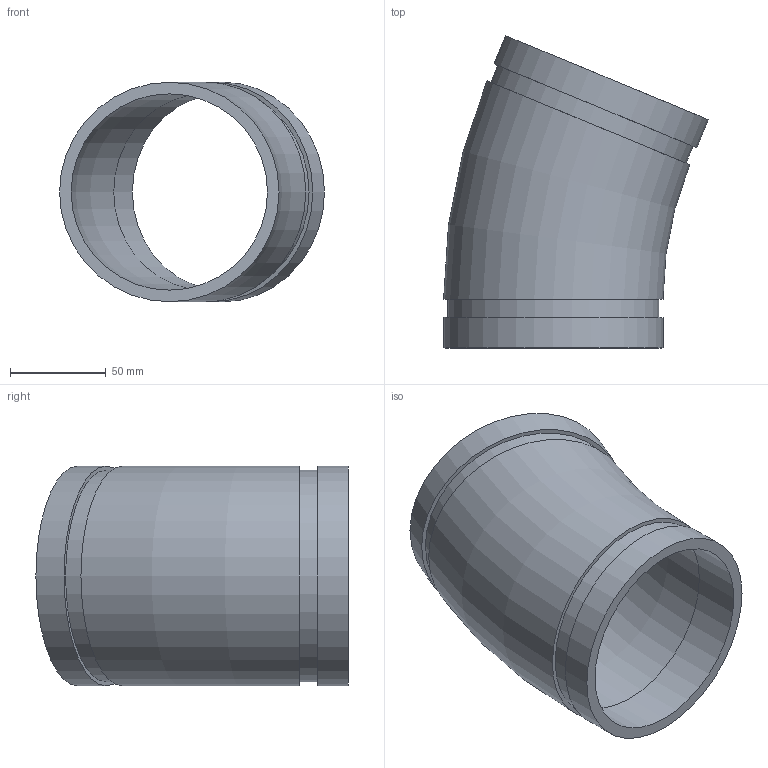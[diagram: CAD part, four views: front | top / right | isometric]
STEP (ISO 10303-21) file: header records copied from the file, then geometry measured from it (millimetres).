
FILE_DESCRIPTION(/* description */ ('VIC ELBOW 22 1/2 DEG No 12 (OGS)','CAx-IF Rec.Pracs.---Representation and Presentation of Product Manufacturing Information (PMI)---4.0---2014-10-13'),/* implementation_level */ '2;1');
FILE_NAME(/* name */ 'C:\Users\Vjadhav\Desktop\CAD for Inventor\1\12\STEP\Victaulic_IPS_Elbow 22.5 Deg_No 12 (OGS)\Victaulic_IPS_Elbow 22.5 Deg_No 12 (OGS)_4 (100).stp',/* time_stamp */ '2021-12-22T09:20:11+06:00',/* author */ ('CONSTRUCTION PIPING SERVICES'),/* organization */ ('Victaulic'),/* preprocessor_version */ 'ST-DEVELOPER v17.2',/* originating_system */ 'Autodesk Inventor 2019',/* authorisation */ '');
FILE_SCHEMA (('AP242_MANAGED_MODEL_BASED_3D_ENGINEERING_MIM_LF { 1 0 10303 442 1 1 4 }'));
Length unit declared in the file: inch
Products named in the file (1): 012-04.0
Bounding box: 137.94 x 162.61 x 114.3 mm (x, y, z)
Volume: 282921.8 mm3; surface area: 105515.4 mm2
Topology: 1 solids, 1 shells, 14 faces, 32 edges, 24 vertices
Faces by surface type: plane 6, cylinder 6, torus 2
Full cylindrical faces by diameter (mm): 102.26 x2, 110.084 x2, 114.3 x2
Entity records: 576 total; most frequent: DIRECTION 114, CARTESIAN_POINT 88, ORIENTED_EDGE 64, AXIS2_PLACEMENT_3D 54, EDGE_CURVE 32, CIRCLE 26, VERTEX_POINT 24, EDGE_LOOP 20
